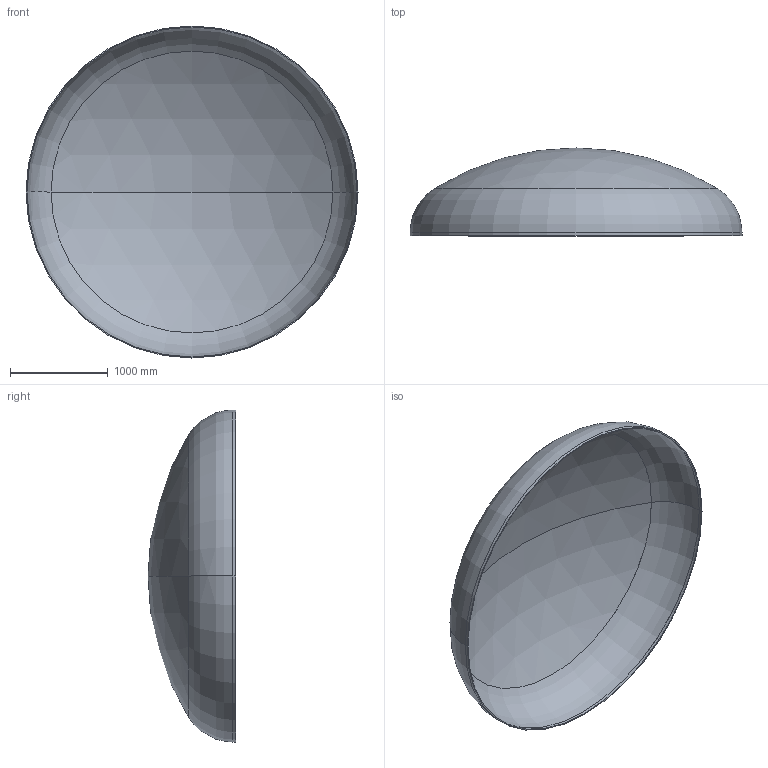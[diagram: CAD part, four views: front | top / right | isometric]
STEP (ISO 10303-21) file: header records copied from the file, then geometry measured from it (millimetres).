
FILE_DESCRIPTION (( 'STEP AP203' ), '1' );
FILE_NAME ('DIN 28013 Korbbogenform_-_Boden DIN 28013 - 3400 x 30 - I - s=10.step', '2016-07-01T19:09:49', ( '' ), ( '' ), 'SwSTEP 2.0', 'SolidWorks 2013', '' );
FILE_SCHEMA (( 'CONFIG_CONTROL_DESIGN' ));
Length unit declared in the file: millimetre
Products named in the file (1): DIN 28013 Korbbogenform_-_Boden DIN 28013 - 3400 x 30 - I - s=10
Bounding box: 3400 x 899.68 x 3400 mm (x, y, z)
Volume: 128526646.3 mm3; surface area: 25812028.2 mm2
Topology: 1 solids, 1 shells, 13 faces, 24 edges, 14 vertices
Faces by surface type: torus 4, cylinder 4, sphere 4, plane 1
Entity records: 407 total; most frequent: DIRECTION 72, CARTESIAN_POINT 52, ORIENTED_EDGE 48, AXIS2_PLACEMENT_3D 34, EDGE_CURVE 24, CIRCLE 20, VERTEX_POINT 14, EDGE_LOOP 14
